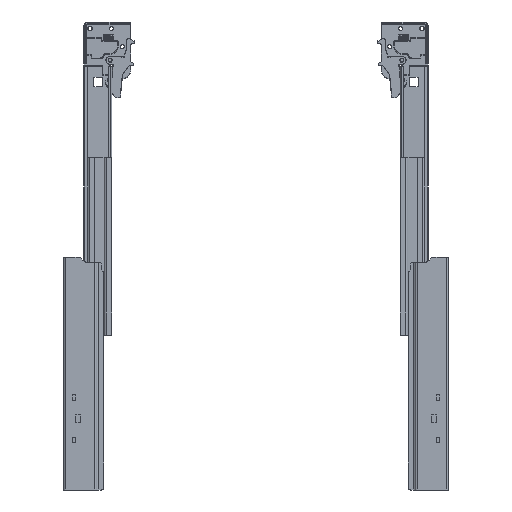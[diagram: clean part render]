
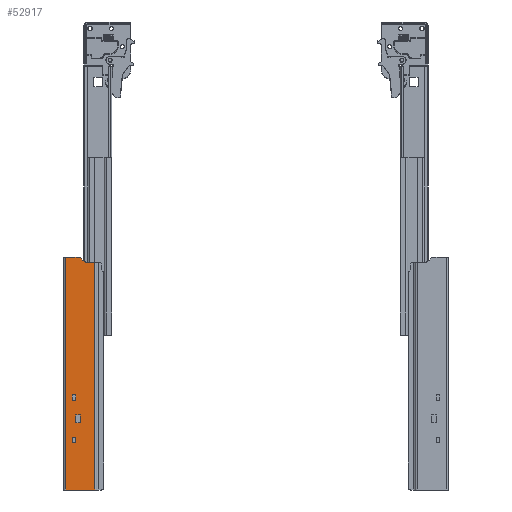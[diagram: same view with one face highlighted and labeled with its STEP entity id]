
A CAD part, front view. The second image highlights one B-rep face of the part: STEP entity #52917.
In plain terms, the highlighted planar face has unit normal (0, -1, 0).
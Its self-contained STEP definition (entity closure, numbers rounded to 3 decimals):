
#4357=FACE_BOUND('',#12722,.T.);
#4358=FACE_BOUND('',#12723,.T.);
#4359=FACE_BOUND('',#12724,.T.);
#5091=CIRCLE('',#56372,2.);
#5093=CIRCLE('',#56376,2.);
#9761=FACE_OUTER_BOUND('',#12721,.T.);
#12721=EDGE_LOOP('',(#33183,#33184,#33185,#33186,#33187,#33188,#33189,#33190));
#12722=EDGE_LOOP('',(#33191,#33192,#33193,#33194));
#12723=EDGE_LOOP('',(#33195,#33196,#33197,#33198));
#12724=EDGE_LOOP('',(#33199,#33200,#33201,#33202));
#16377=LINE('',#76820,#18387);
#16381=LINE('',#76828,#18391);
#16384=LINE('',#76834,#18394);
#16387=LINE('',#76839,#18397);
#16389=LINE('',#76845,#18399);
#16393=LINE('',#76853,#18403);
#16396=LINE('',#76859,#18406);
#16399=LINE('',#76864,#18409);
#16401=LINE('',#76870,#18411);
#16405=LINE('',#76878,#18415);
#16408=LINE('',#76884,#18418);
#16411=LINE('',#76889,#18421);
#16431=LINE('',#76949,#18441);
#16447=LINE('',#76996,#18457);
#16450=LINE('',#77006,#18460);
#16452=LINE('',#77012,#18462);
#16453=LINE('',#77014,#18463);
#16454=LINE('',#77015,#18464);
#18387=VECTOR('',#62500,6.);
#18391=VECTOR('',#62506,3.5);
#18394=VECTOR('',#62511,6.);
#18397=VECTOR('',#62516,3.5);
#18399=VECTOR('',#62522,6.);
#18403=VECTOR('',#62528,3.5);
#18406=VECTOR('',#62533,6.);
#18409=VECTOR('',#62538,3.5);
#18411=VECTOR('',#62544,8.);
#18415=VECTOR('',#62550,5.);
#18418=VECTOR('',#62555,8.);
#18421=VECTOR('',#62560,5.);
#18441=VECTOR('',#62616,5.414);
#18457=VECTOR('',#62658,9.672);
#18460=VECTOR('',#62667,237.);
#18462=VECTOR('',#62673,14.172);
#18463=VECTOR('',#62674,242.);
#18464=VECTOR('',#62675,30.5);
#20397=VERTEX_POINT('',#76818);
#20398=VERTEX_POINT('',#76819);
#20401=VERTEX_POINT('',#76827);
#20403=VERTEX_POINT('',#76833);
#20405=VERTEX_POINT('',#76843);
#20406=VERTEX_POINT('',#76844);
#20409=VERTEX_POINT('',#76852);
#20411=VERTEX_POINT('',#76858);
#20413=VERTEX_POINT('',#76868);
#20414=VERTEX_POINT('',#76869);
#20417=VERTEX_POINT('',#76877);
#20419=VERTEX_POINT('',#76883);
#20439=VERTEX_POINT('',#76939);
#20440=VERTEX_POINT('',#76941);
#20442=VERTEX_POINT('',#76947);
#20444=VERTEX_POINT('',#76953);
#20460=VERTEX_POINT('',#76995);
#20464=VERTEX_POINT('',#77005);
#20466=VERTEX_POINT('',#77011);
#20467=VERTEX_POINT('',#77013);
#25079=EDGE_CURVE('',#20397,#20398,#16377,.T.);
#25083=EDGE_CURVE('',#20398,#20401,#16381,.T.);
#25086=EDGE_CURVE('',#20401,#20403,#16384,.T.);
#25089=EDGE_CURVE('',#20403,#20397,#16387,.T.);
#25091=EDGE_CURVE('',#20405,#20406,#16389,.T.);
#25095=EDGE_CURVE('',#20406,#20409,#16393,.T.);
#25098=EDGE_CURVE('',#20409,#20411,#16396,.T.);
#25101=EDGE_CURVE('',#20411,#20405,#16399,.T.);
#25103=EDGE_CURVE('',#20413,#20414,#16401,.T.);
#25107=EDGE_CURVE('',#20414,#20417,#16405,.T.);
#25110=EDGE_CURVE('',#20417,#20419,#16408,.T.);
#25113=EDGE_CURVE('',#20419,#20413,#16411,.T.);
#25138=EDGE_CURVE('',#20439,#20440,#5091,.T.);
#25142=EDGE_CURVE('',#20439,#20442,#16431,.T.);
#25145=EDGE_CURVE('',#20444,#20442,#5093,.T.);
#25165=EDGE_CURVE('',#20460,#20440,#16447,.T.);
#25170=EDGE_CURVE('',#20460,#20464,#16450,.T.);
#25173=EDGE_CURVE('',#20466,#20444,#16452,.T.);
#25174=EDGE_CURVE('',#20466,#20467,#16453,.T.);
#25175=EDGE_CURVE('',#20464,#20467,#16454,.T.);
#33183=ORIENTED_EDGE('',*,*,#25145,.F.);
#33184=ORIENTED_EDGE('',*,*,#25173,.F.);
#33185=ORIENTED_EDGE('',*,*,#25174,.T.);
#33186=ORIENTED_EDGE('',*,*,#25175,.F.);
#33187=ORIENTED_EDGE('',*,*,#25170,.F.);
#33188=ORIENTED_EDGE('',*,*,#25165,.T.);
#33189=ORIENTED_EDGE('',*,*,#25138,.F.);
#33190=ORIENTED_EDGE('',*,*,#25142,.T.);
#33191=ORIENTED_EDGE('',*,*,#25079,.T.);
#33192=ORIENTED_EDGE('',*,*,#25083,.T.);
#33193=ORIENTED_EDGE('',*,*,#25086,.T.);
#33194=ORIENTED_EDGE('',*,*,#25089,.T.);
#33195=ORIENTED_EDGE('',*,*,#25091,.T.);
#33196=ORIENTED_EDGE('',*,*,#25095,.T.);
#33197=ORIENTED_EDGE('',*,*,#25098,.T.);
#33198=ORIENTED_EDGE('',*,*,#25101,.T.);
#33199=ORIENTED_EDGE('',*,*,#25103,.T.);
#33200=ORIENTED_EDGE('',*,*,#25107,.T.);
#33201=ORIENTED_EDGE('',*,*,#25110,.T.);
#33202=ORIENTED_EDGE('',*,*,#25113,.T.);
#48994=PLANE('',#56391);
#52917=ADVANCED_FACE('',(#9761,#4357,#4358,#4359),#48994,.T.);
#56372=AXIS2_PLACEMENT_3D('',#76942,#62609,#62610);
#56376=AXIS2_PLACEMENT_3D('',#76955,#62622,#62623);
#56391=AXIS2_PLACEMENT_3D('',#77010,#62671,#62672);
#62500=DIRECTION('',(0.,0.,1.));
#62506=DIRECTION('',(1.,0.,0.));
#62511=DIRECTION('',(0.,0.,-1.));
#62516=DIRECTION('',(-1.,0.,0.));
#62522=DIRECTION('',(0.,0.,1.));
#62528=DIRECTION('',(1.,0.,0.));
#62533=DIRECTION('',(0.,0.,-1.));
#62538=DIRECTION('',(-1.,0.,0.));
#62544=DIRECTION('',(0.,0.,1.));
#62550=DIRECTION('',(1.,0.,0.));
#62555=DIRECTION('',(0.,0.,-1.));
#62560=DIRECTION('',(-1.,0.,0.));
#62609=DIRECTION('center_axis',(0.,-1.,0.));
#62610=DIRECTION('ref_axis',(-0.383,0.,-0.924));
#62616=DIRECTION('',(-0.707,0.,0.707));
#62622=DIRECTION('center_axis',(0.,1.,0.));
#62623=DIRECTION('ref_axis',(0.383,0.,0.924));
#62658=DIRECTION('',(-1.,0.,0.));
#62667=DIRECTION('',(0.,0.,-1.));
#62671=DIRECTION('center_axis',(0.,-1.,0.));
#62672=DIRECTION('ref_axis',(-1.,0.,0.));
#62673=DIRECTION('',(1.,0.,0.));
#62674=DIRECTION('',(0.,0.,-1.));
#62675=DIRECTION('',(-1.,0.,0.));
#76818=CARTESIAN_POINT('',(9.,0.,-149.));
#76819=CARTESIAN_POINT('',(9.,0.,-143.));
#76820=CARTESIAN_POINT('',(9.,0.,-71.5));
#76827=CARTESIAN_POINT('',(12.5,0.,-143.));
#76828=CARTESIAN_POINT('',(22.5,0.,-143.));
#76833=CARTESIAN_POINT('',(12.5,0.,-149.));
#76834=CARTESIAN_POINT('',(12.5,0.,-74.5));
#76839=CARTESIAN_POINT('',(20.75,0.,-149.));
#76843=CARTESIAN_POINT('',(9.,0.,-193.));
#76844=CARTESIAN_POINT('',(9.,0.,-187.));
#76845=CARTESIAN_POINT('',(9.,0.,-93.5));
#76852=CARTESIAN_POINT('',(12.5,0.,-187.));
#76853=CARTESIAN_POINT('',(22.5,0.,-187.));
#76858=CARTESIAN_POINT('',(12.5,0.,-193.));
#76859=CARTESIAN_POINT('',(12.5,0.,-96.5));
#76864=CARTESIAN_POINT('',(20.75,0.,-193.));
#76868=CARTESIAN_POINT('',(12.5,0.,-172.));
#76869=CARTESIAN_POINT('',(12.5,0.,-164.));
#76870=CARTESIAN_POINT('',(12.5,0.,-82.));
#76877=CARTESIAN_POINT('',(17.5,0.,-164.));
#76878=CARTESIAN_POINT('',(25.,0.,-164.));
#76883=CARTESIAN_POINT('',(17.5,0.,-172.));
#76884=CARTESIAN_POINT('',(17.5,0.,-86.));
#76889=CARTESIAN_POINT('',(22.5,0.,-172.));
#76939=CARTESIAN_POINT('',(21.414,0.,-4.414));
#76941=CARTESIAN_POINT('',(22.828,0.,-5.));
#76942=CARTESIAN_POINT('Origin',(22.828,0.,
-3.));
#76947=CARTESIAN_POINT('',(17.586,0.,-0.586));
#76949=CARTESIAN_POINT('',(23.375,0.,-6.375));
#76953=CARTESIAN_POINT('',(16.172,0.,0.));
#76955=CARTESIAN_POINT('Origin',(16.172,0.,
-2.));
#76995=CARTESIAN_POINT('',(32.5,0.,-5.));
#76996=CARTESIAN_POINT('',(35.75,0.,-5.));
#77005=CARTESIAN_POINT('',(32.5,0.,-242.));
#77006=CARTESIAN_POINT('',(32.5,0.,0.));
#77010=CARTESIAN_POINT('Origin',(32.5,0.,0.));
#77011=CARTESIAN_POINT('',(2.,0.,0.));
#77012=CARTESIAN_POINT('',(2.,0.,0.));
#77013=CARTESIAN_POINT('',(2.,0.,-242.));
#77014=CARTESIAN_POINT('',(2.,0.,0.));
#77015=CARTESIAN_POINT('',(2.,0.,-242.));
